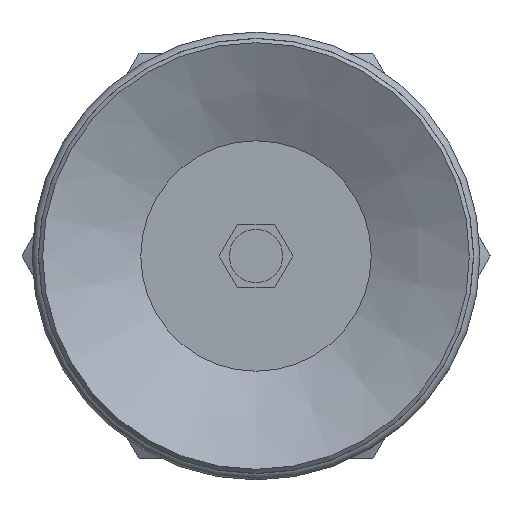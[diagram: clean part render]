
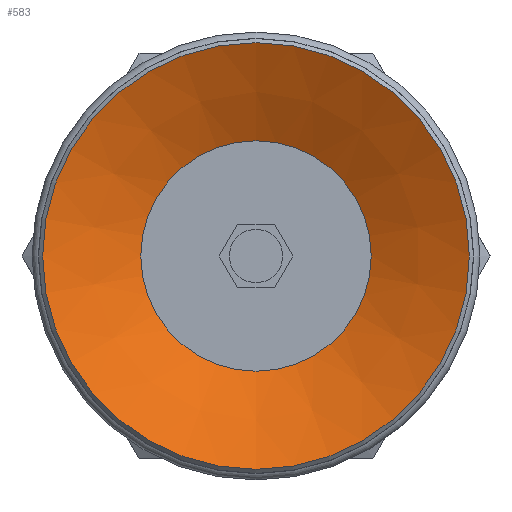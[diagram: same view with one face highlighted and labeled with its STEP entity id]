
A CAD part, front view. The second image highlights one B-rep face of the part: STEP entity #583.
In plain terms, the highlighted conical face has half-angle 63 degrees and reference radius 5.4 mm.
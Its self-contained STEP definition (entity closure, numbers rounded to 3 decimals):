
#583=ADVANCED_FACE('',(#895,#896),#897,.F.);
#895=FACE_BOUND('',#1210,.T.);
#896=FACE_OUTER_BOUND('',#1211,.T.);
#897=CONICAL_SURFACE('',#1212,5.4,1.1);
#1210=EDGE_LOOP('',(#2096));
#1211=EDGE_LOOP('',(#2097));
#1212=AXIS2_PLACEMENT_3D('',#2098,#2099,#2100);
#2096=ORIENTED_EDGE('',*,*,#2354,.F.);
#2097=ORIENTED_EDGE('',*,*,#2353,.T.);
#2098=CARTESIAN_POINT('',(0.0,5.518,0.0));
#2099=DIRECTION('',(-0.0,-1.0,0.));
#2100=DIRECTION('',(0.0,0.,-1.0));
#2353=EDGE_CURVE('',#2774,#2774,#2775,.T.);
#2354=EDGE_CURVE('',#2776,#2776,#2777,.T.);
#2774=VERTEX_POINT('',#3674);
#2775=CIRCLE('',#3675,10.0);
#2776=VERTEX_POINT('',#3676);
#2777=CIRCLE('',#3677,5.4);
#3674=CARTESIAN_POINT('',(0.0,3.175,-10.0));
#3675=AXIS2_PLACEMENT_3D('',#4045,#4046,#4047);
#3676=CARTESIAN_POINT('',(0.0,5.518,-5.4));
#3677=AXIS2_PLACEMENT_3D('',#4048,#4049,#4050);
#4045=CARTESIAN_POINT('',(0.0,3.175,0.0));
#4046=DIRECTION('',(0.0,-1.0,0.));
#4047=DIRECTION('',(0.0,0.,-1.0));
#4048=CARTESIAN_POINT('',(0.0,5.518,0.0));
#4049=DIRECTION('',(0.0,-1.0,0.));
#4050=DIRECTION('',(0.0,0.,-1.0));
